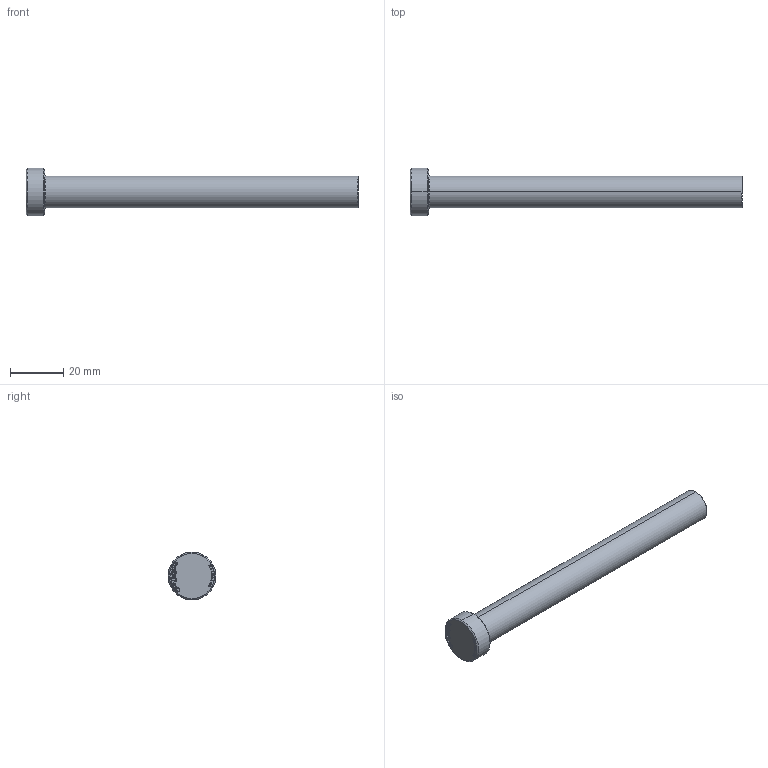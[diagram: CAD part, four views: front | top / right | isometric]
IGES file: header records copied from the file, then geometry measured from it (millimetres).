
Start section: SolidWorks IGES file using analytic representation for surfaces
Global section: file name: D:\TRIVECTOR\2026\08_Agosto\PR - PINO DE RETORNO (CATÁLOGO)\PR120125.IGS; native system: SolidWorks 2024; preprocessor: SolidWorks 2024; author: Usuario; date: 260822.083546; units: millimetre
Bounding box: 125 x 18 x 18 mm (x, y, z)
Surface area: 5325.3 mm2 (no closed solid volume)
Topology: 0 solids, 0 shells, 392 faces, 3717 edges, 3717 vertices
Faces by surface type: bspline 374, revolution 18
